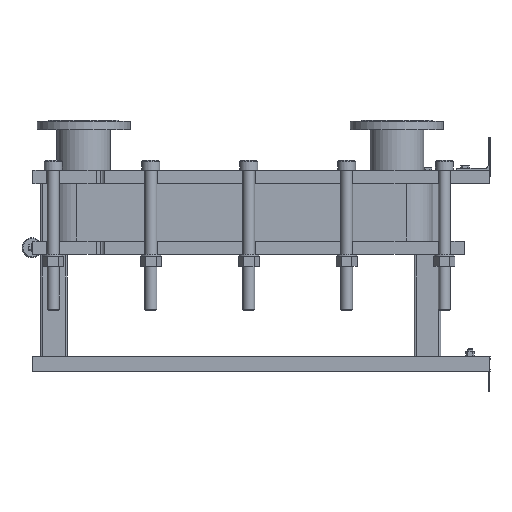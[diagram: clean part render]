
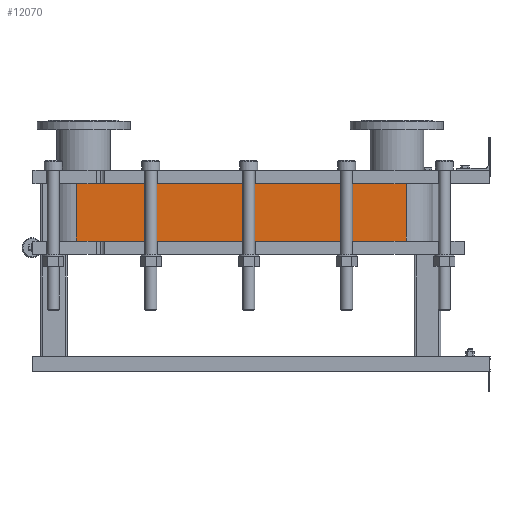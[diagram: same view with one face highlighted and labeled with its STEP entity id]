
A CAD part, left-side view. The second image highlights one B-rep face of the part: STEP entity #12070.
In plain terms, the highlighted planar face has unit normal (-1, 0, 0).
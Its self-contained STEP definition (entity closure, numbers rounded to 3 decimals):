
#1064=LINE('',#21140,#2164);
#1065=LINE('',#21144,#2165);
#1066=LINE('',#21146,#2166);
#1067=LINE('',#21147,#2167);
#2164=VECTOR('',#15790,10.);
#2165=VECTOR('',#15795,10.);
#2166=VECTOR('',#15796,10.);
#2167=VECTOR('',#15797,10.);
#3304=FACE_OUTER_BOUND('',#4091,.T.);
#4091=EDGE_LOOP('',(#9793,#9794,#9795,#9796));
#5677=VERTEX_POINT('',#21137);
#5678=VERTEX_POINT('',#21139);
#5679=VERTEX_POINT('',#21143);
#5680=VERTEX_POINT('',#21145);
#7118=EDGE_CURVE('',#5678,#5677,#1064,.T.);
#7120=EDGE_CURVE('',#5677,#5679,#1065,.T.);
#7121=EDGE_CURVE('',#5680,#5679,#1066,.T.);
#7122=EDGE_CURVE('',#5680,#5678,#1067,.T.);
#9793=ORIENTED_EDGE('',*,*,#7120,.T.);
#9794=ORIENTED_EDGE('',*,*,#7121,.F.);
#9795=ORIENTED_EDGE('',*,*,#7122,.T.);
#9796=ORIENTED_EDGE('',*,*,#7118,.T.);
#11441=PLANE('',#13191);
#12070=ADVANCED_FACE('',(#3304),#11441,.T.);
#13191=AXIS2_PLACEMENT_3D('',#21142,#15793,#15794);
#15790=DIRECTION('',(0.,0.,-1.));
#15793=DIRECTION('center_axis',(-1.,0.,0.));
#15794=DIRECTION('ref_axis',(0.,1.,0.));
#15795=DIRECTION('',(0.,-1.,0.));
#15796=DIRECTION('',(0.,0.,-1.));
#15797=DIRECTION('',(0.,1.,0.));
#21137=CARTESIAN_POINT('',(-248.152,1243.818,-172.5));
#21139=CARTESIAN_POINT('',(-248.152,1243.818,0.));
#21140=CARTESIAN_POINT('',(-248.152,1243.818,0.));
#21142=CARTESIAN_POINT('Origin',(-248.152,251.818,0.));
#21143=CARTESIAN_POINT('',(-248.152,251.818,-172.5));
#21144=CARTESIAN_POINT('',(-248.152,499.818,-172.5));
#21145=CARTESIAN_POINT('',(-248.152,251.818,0.));
#21146=CARTESIAN_POINT('',(-248.152,251.818,0.));
#21147=CARTESIAN_POINT('',(-248.152,251.818,0.));
